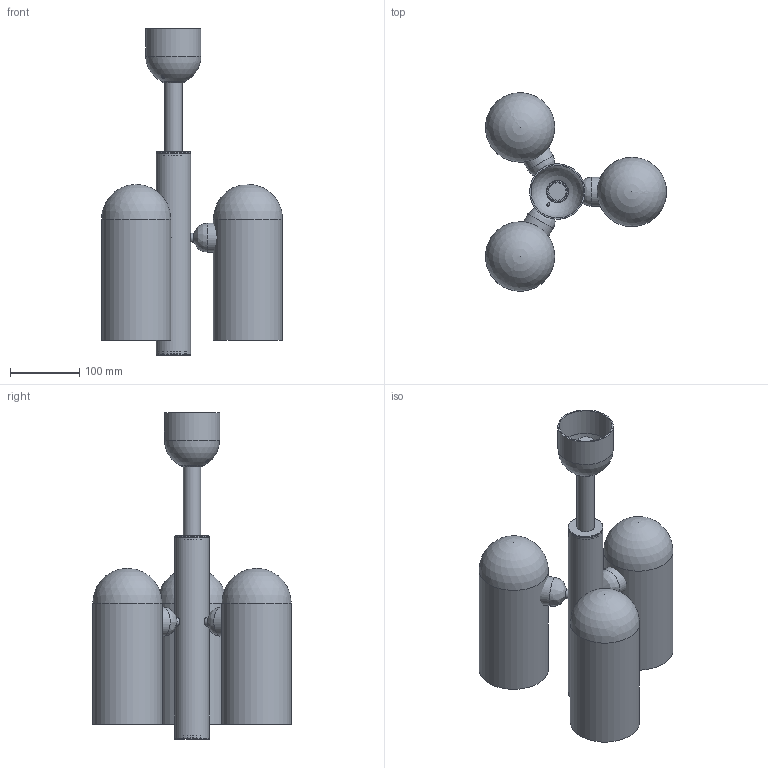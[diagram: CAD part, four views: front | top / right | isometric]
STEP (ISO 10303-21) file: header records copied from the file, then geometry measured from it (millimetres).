
FILE_DESCRIPTION(/* description */ (''),/* implementation_level */ '2;1');
FILE_NAME(/* name */ 'T:\B140 Odyssey Pendant 3\Pliki bryłowe handlowe\B140 Odyssey 3 3D files_na stronę\B140 Odyssey 3.stp',/* time_stamp */ '2022-02-02T13:28:20+01:00',/* author */ ('Mariusz Awariusz'),/* organization */ (''),/* preprocessor_version */ 'ST-DEVELOPER v18.1',/* originating_system */ 'Autodesk Inventor 2022',/* authorisation */ '');
FILE_SCHEMA (('AUTOMOTIVE_DESIGN { 1 0 10303 214 3 1 1 }'));
Length unit declared in the file: millimetre
Products named in the file (1): Odyssey 3 CE V11_na potrzeby plików 3D_2_jako część_
korpusy bryłowe
Bounding box: 261.32 x 286.28 x 472 mm (x, y, z)
Volume: 5767943.2 mm3; surface area: 378158.4 mm2
Topology: 19 solids, 19 shells, 87 faces, 132 edges, 86 vertices
Faces by surface type: plane 38, cylinder 31, bspline 7, sphere 6, cone 5
Full cylindrical faces by diameter (mm): 4 x1, 10 x3, 13 x3, 25 x1, 28 x2, 30 x1, 31.5 x1, 32 x1, 42 x3, 46 x2, 48 x2, 50 x3, 76 x1, 80 x1, 100 x3
Entity records: 6185 total; most frequent: CARTESIAN_POINT 4570, DIRECTION 352, ORIENTED_EDGE 258, AXIS2_PLACEMENT_3D 158, EDGE_CURVE 129, EDGE_LOOP 99, FACE_OUTER_BOUND 87, ADVANCED_FACE 87
